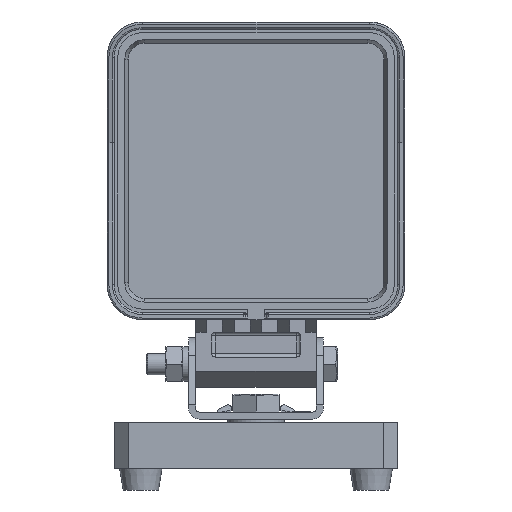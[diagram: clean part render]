
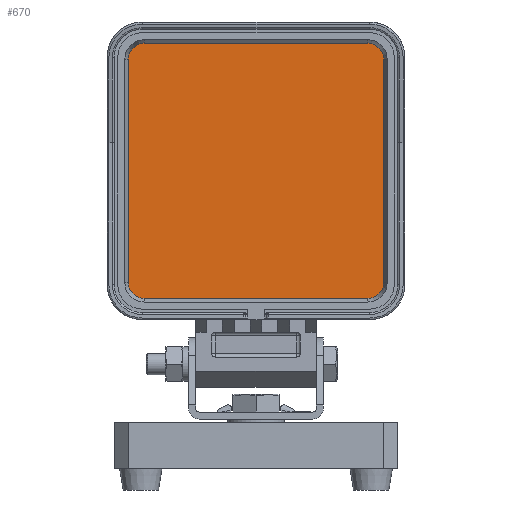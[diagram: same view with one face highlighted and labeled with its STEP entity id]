
A CAD part, front view. The second image highlights one B-rep face of the part: STEP entity #670.
In plain terms, the highlighted planar face has unit normal (0, -1, 0).
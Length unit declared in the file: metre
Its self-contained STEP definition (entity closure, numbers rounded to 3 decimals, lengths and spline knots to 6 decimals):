
#670=ADVANCED_FACE('36:3070',(#1920),#1921,.T.);
#1920=FACE_OUTER_BOUND('',#3814,.T.);
#1921=PLANE('',#3815);
#3814=EDGE_LOOP('',(#6485,#6486,#6487,#6488,#6489,#6490,#6491,#6492));
#3815=AXIS2_PLACEMENT_3D('',#6493,#6494,#6495);
#6485=ORIENTED_EDGE('',*,*,#11917,.F.);
#6486=ORIENTED_EDGE('',*,*,#11918,.F.);
#6487=ORIENTED_EDGE('',*,*,#11919,.F.);
#6488=ORIENTED_EDGE('',*,*,#11920,.F.);
#6489=ORIENTED_EDGE('',*,*,#11921,.F.);
#6490=ORIENTED_EDGE('',*,*,#11922,.F.);
#6491=ORIENTED_EDGE('',*,*,#11923,.F.);
#6492=ORIENTED_EDGE('',*,*,#11924,.F.);
#6493=CARTESIAN_POINT('',(0.,-0.0224,0.0695));
#6494=DIRECTION('',(0.,-1.0,0.0));
#6495=DIRECTION('',(0.0,0.0,1.0));
#11917=EDGE_CURVE('36:5185',#14097,#14098,#14099,.T.);
#11918=EDGE_CURVE('36:5182',#14100,#14097,#14101,.F.);
#11919=EDGE_CURVE('36:5179',#14102,#14100,#14103,.T.);
#11920=EDGE_CURVE('36:5176',#14104,#14102,#14105,.F.);
#11921=EDGE_CURVE('36:5173',#14106,#14104,#14107,.T.);
#11922=EDGE_CURVE('36:5170',#14108,#14106,#14109,.F.);
#11923=EDGE_CURVE('36:5167',#14110,#14108,#14111,.T.);
#11924=EDGE_CURVE('36:5164',#14098,#14110,#14112,.F.);
#14097=VERTEX_POINT('',#17379);
#14098=VERTEX_POINT('',#17380);
#14099=LINE('',#17381,#17382);
#14100=VERTEX_POINT('',#17383);
#14101=CIRCLE('',#17384,0.0045);
#14102=VERTEX_POINT('',#17385);
#14103=LINE('',#17386,#17387);
#14104=VERTEX_POINT('',#17388);
#14105=CIRCLE('',#17389,0.0045);
#14106=VERTEX_POINT('',#17390);
#14107=LINE('',#17391,#17392);
#14108=VERTEX_POINT('',#17393);
#14109=CIRCLE('',#17394,0.0045);
#14110=VERTEX_POINT('',#17395);
#14111=LINE('',#17396,#17397);
#14112=CIRCLE('',#17398,0.0045);
#17379=CARTESIAN_POINT('',(0.0315,-0.0224,0.0335));
#17380=CARTESIAN_POINT('',(-0.0315,-0.0224,0.0335));
#17381=CARTESIAN_POINT('',(0.,-0.0224,0.0335));
#17382=VECTOR('',#23099,1.0);
#17383=CARTESIAN_POINT('',(0.036,-0.0224,0.038));
#17384=AXIS2_PLACEMENT_3D('',#23100,#23101,#23102);
#17385=CARTESIAN_POINT('',(0.036,-0.0224,0.101));
#17386=CARTESIAN_POINT('',(0.036,-0.0224,0.0685));
#17387=VECTOR('',#23103,1.0);
#17388=CARTESIAN_POINT('',(0.0315,-0.0224,0.1055));
#17389=AXIS2_PLACEMENT_3D('',#23104,#23105,#23106);
#17390=CARTESIAN_POINT('',(-0.0315,-0.0224,0.1055));
#17391=CARTESIAN_POINT('',(0.,-0.0224,0.1055));
#17392=VECTOR('',#23107,1.0);
#17393=CARTESIAN_POINT('',(-0.036,-0.0224,0.101));
#17394=AXIS2_PLACEMENT_3D('',#23108,#23109,#23110);
#17395=CARTESIAN_POINT('',(-0.036,-0.0224,0.038));
#17396=CARTESIAN_POINT('',(-0.036,-0.0224,0.0685));
#17397=VECTOR('',#23111,1.0);
#17398=AXIS2_PLACEMENT_3D('',#23112,#23113,#23114);
#23099=DIRECTION('',(-1.0,0.,0.0));
#23100=CARTESIAN_POINT('',(0.0315,-0.0224,0.038));
#23101=DIRECTION('',(0.,-1.0,0.0));
#23102=DIRECTION('',(0.0,0.0,1.0));
#23103=DIRECTION('',(-0.0,0.0,-1.0));
#23104=CARTESIAN_POINT('',(0.0315,-0.0224,0.101));
#23105=DIRECTION('',(0.,-1.0,0.0));
#23106=DIRECTION('',(0.0,0.0,1.0));
#23107=DIRECTION('',(1.0,0.,0.0));
#23108=CARTESIAN_POINT('',(-0.0315,-0.0224,0.101));
#23109=DIRECTION('',(0.,-1.0,0.0));
#23110=DIRECTION('',(0.0,0.0,1.0));
#23111=DIRECTION('',(0.0,0.0,1.0));
#23112=CARTESIAN_POINT('',(-0.0315,-0.0224,0.038));
#23113=DIRECTION('',(0.,-1.0,0.0));
#23114=DIRECTION('',(0.0,0.0,1.0));
